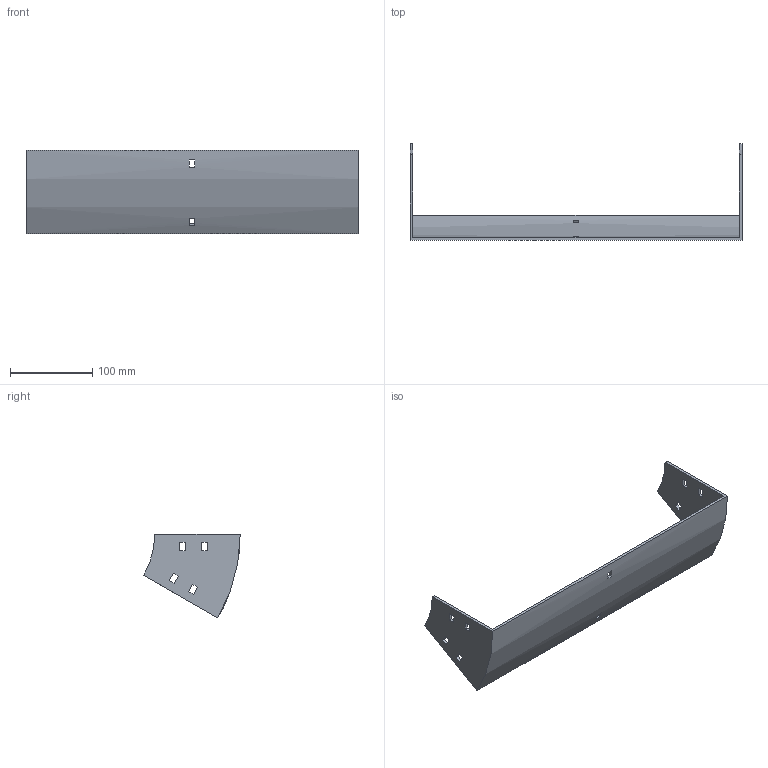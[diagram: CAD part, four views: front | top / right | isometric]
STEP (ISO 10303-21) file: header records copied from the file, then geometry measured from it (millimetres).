
FILE_DESCRIPTION (( 'STEP AP214' ), '1' );
FILE_NAME ('32B1D400.step', '2025-02-21T09:42:39', ( '' ), ( '' ), 'SwSTEP 2.0', 'SolidWorks 2023', '' );
FILE_SCHEMA (( 'AUTOMOTIVE_DESIGN' ));
Length unit declared in the file: millimetre
Products named in the file (1): 32B1D400
Bounding box: 404 x 117.4 x 102 mm (x, y, z)
Volume: 202713.5 mm3; surface area: 121614 mm2
Topology: 1 solids, 1 shells, 50 faces, 144 edges, 96 vertices
Faces by surface type: plane 46, cylinder 4
Entity records: 1687 total; most frequent: CARTESIAN_POINT 291, ORIENTED_EDGE 288, DIRECTION 262, EDGE_CURVE 144, LINE 128, VECTOR 128, VERTEX_POINT 96, EDGE_LOOP 70
